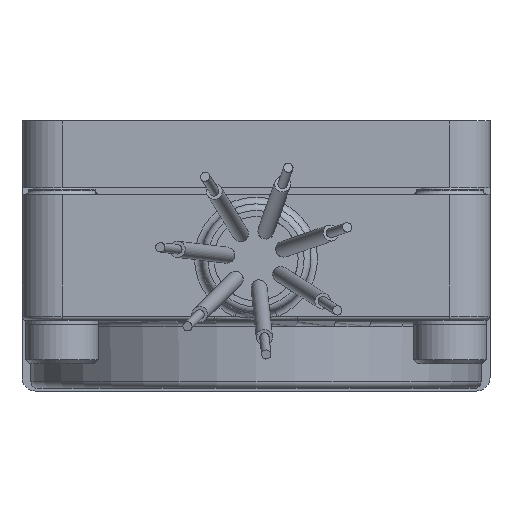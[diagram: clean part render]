
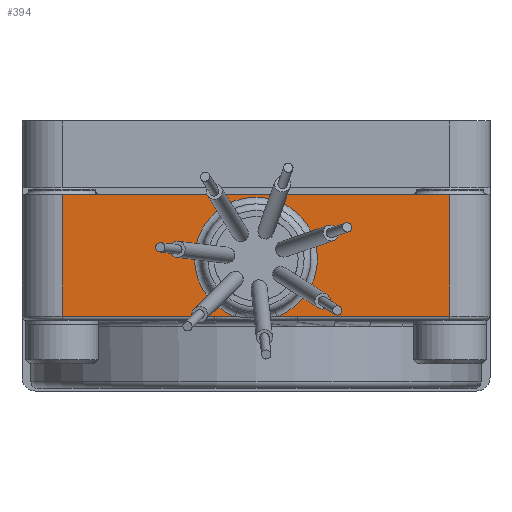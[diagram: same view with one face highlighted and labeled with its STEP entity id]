
A CAD part, front view. The second image highlights one B-rep face of the part: STEP entity #394.
In plain terms, the highlighted planar face has unit normal (0, -1, 0).
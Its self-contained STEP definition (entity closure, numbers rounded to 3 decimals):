
#394=ADVANCED_FACE('NONE',(#1013),#1014,.F.);
#1013=FACE_OUTER_BOUND('',#2329,.T.);
#1014=PLANE('',#2330);
#2329=EDGE_LOOP('',(#3573,#3574,#3575,#3576,#3577,#3578,#3579,#3580));
#2330=AXIS2_PLACEMENT_3D('',#3581,#3582,#3583);
#3573=ORIENTED_EDGE('',*,*,#5098,.T.);
#3574=ORIENTED_EDGE('',*,*,#5349,.T.);
#3575=ORIENTED_EDGE('',*,*,#5096,.T.);
#3576=ORIENTED_EDGE('',*,*,#5350,.T.);
#3577=ORIENTED_EDGE('',*,*,#5351,.T.);
#3578=ORIENTED_EDGE('',*,*,#5352,.F.);
#3579=ORIENTED_EDGE('',*,*,#5353,.T.);
#3580=ORIENTED_EDGE('',*,*,#5303,.T.);
#3581=CARTESIAN_POINT('',(17.5,-47.5,5.5));
#3582=DIRECTION('',(-0.0,1.0,0.0));
#3583=DIRECTION('',(1.0,0.0,0.0));
#5096=EDGE_CURVE('NONE',#5839,#5840,#5841,.T.);
#5098=EDGE_CURVE('NONE',#5844,#5842,#5845,.T.);
#5303=EDGE_CURVE('NONE',#6190,#5844,#6196,.T.);
#5349=EDGE_CURVE('NONE',#5842,#5839,#6267,.T.);
#5350=EDGE_CURVE('NONE',#5840,#6268,#6269,.T.);
#5351=EDGE_CURVE('NONE',#6268,#6270,#6271,.T.);
#5352=EDGE_CURVE('NONE',#6272,#6270,#6273,.T.);
#5353=EDGE_CURVE('NONE',#6272,#6190,#6274,.T.);
#5839=VERTEX_POINT('NONE',#6940);
#5840=VERTEX_POINT('NONE',#6941);
#5841=B_SPLINE_CURVE_WITH_KNOTS('',3,(#6942,#6943,#6944,#6945),.UNSPECIFIED.,.F.,.F.,(4,4),(0.005,0.006),.UNSPECIFIED.);
#5842=VERTEX_POINT('NONE',#6946);
#5844=VERTEX_POINT('NONE',#6958);
#5845=B_SPLINE_CURVE_WITH_KNOTS('',3,(#6959,#6960,#6961,#6962),.UNSPECIFIED.,.F.,.F.,(4,4),(0.0,0.002),.UNSPECIFIED.);
#6190=VERTEX_POINT('NONE',#7570);
#6196=LINE('',#7578,#7579);
#6267=CIRCLE('',#7678,4.6);
#6268=VERTEX_POINT('NONE',#7679);
#6269=LINE('',#7680,#7681);
#6270=VERTEX_POINT('NONE',#7682);
#6271=LINE('',#7683,#7684);
#6272=VERTEX_POINT('NONE',#7685);
#6273=LINE('',#7686,#7687);
#6274=LINE('',#7688,#7689);
#6940=CARTESIAN_POINT('',(1.556,-47.5,-3.629));
#6941=CARTESIAN_POINT('',(3.132,-47.5,-3.6));
#6942=CARTESIAN_POINT('',(1.556,-47.5,-3.629));
#6943=CARTESIAN_POINT('',(2.081,-47.5,-3.616));
#6944=CARTESIAN_POINT('',(2.607,-47.5,-3.6));
#6945=CARTESIAN_POINT('',(3.132,-47.5,-3.6));
#6946=CARTESIAN_POINT('',(-1.556,-47.5,-3.629));
#6958=CARTESIAN_POINT('',(-3.132,-47.5,-3.6));
#6959=CARTESIAN_POINT('',(-3.132,-47.5,-3.6));
#6960=CARTESIAN_POINT('',(-2.607,-47.5,-3.6));
#6961=CARTESIAN_POINT('',(-2.081,-47.5,-3.616));
#6962=CARTESIAN_POINT('',(-1.556,-47.5,-3.629));
#7570=CARTESIAN_POINT('',(-14.5,-47.5,-3.6));
#7578=CARTESIAN_POINT('',(14.5,-47.5,-3.6));
#7579=VECTOR('',#8830,1.0);
#7678=AXIS2_PLACEMENT_3D('',#8897,#8898,#8899);
#7679=CARTESIAN_POINT('',(14.5,-47.5,-3.6));
#7680=CARTESIAN_POINT('',(14.5,-47.5,-3.6));
#7681=VECTOR('',#8900,1.0);
#7682=CARTESIAN_POINT('',(14.5,-47.5,5.5));
#7683=CARTESIAN_POINT('',(14.5,-47.5,5.5));
#7684=VECTOR('',#8901,1.0);
#7685=CARTESIAN_POINT('',(-14.5,-47.5,5.5));
#7686=CARTESIAN_POINT('',(17.5,-47.5,5.5));
#7687=VECTOR('',#8902,1.0);
#7688=CARTESIAN_POINT('',(-14.5,-47.5,5.5));
#7689=VECTOR('',#8903,1.0);
#8830=DIRECTION('',(1.0,0.0,0.0));
#8897=CARTESIAN_POINT('',(0.,-47.5,0.7));
#8898=DIRECTION('',(0.0,1.0,0.0));
#8899=DIRECTION('',(0.0,0.0,-1.0));
#8900=DIRECTION('',(1.0,0.0,0.0));
#8901=DIRECTION('',(0.0,0.0,1.0));
#8902=DIRECTION('',(1.0,0.0,0.0));
#8903=DIRECTION('',(0.0,0.0,-1.0));
